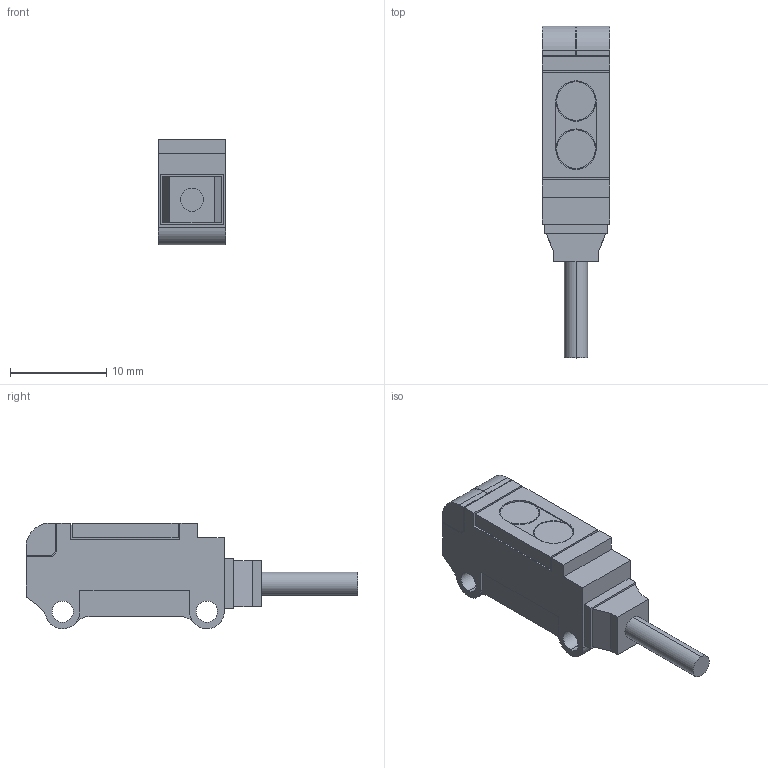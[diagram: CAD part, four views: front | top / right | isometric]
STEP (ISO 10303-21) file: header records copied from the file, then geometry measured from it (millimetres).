
FILE_DESCRIPTION (( 'STEP AP203' ), '1' );
FILE_NAME ('E3T_SL21.step', '2008-10-01T08:30:30', ( 'OSMC1.0 ' ), ( ' ' ), 'SwSTEP 2.0', 'SolidWorks 2002025', '' );
FILE_SCHEMA (( 'CONFIG_CONTROL_DESIGN' ));
Length unit declared in the file: millimetre
Products named in the file (1): E3T_SL21
Bounding box: 7 x 34.5 x 11 mm (x, y, z)
Volume: 1470.2 mm3; surface area: 1086.7 mm2
Topology: 1 solids, 1 shells, 104 faces, 281 edges, 186 vertices
Faces by surface type: plane 80, cylinder 24
Entity records: 3330 total; most frequent: CARTESIAN_POINT 572, ORIENTED_EDGE 562, DIRECTION 543, EDGE_CURVE 281, LINE 229, VECTOR 229, VERTEX_POINT 186, AXIS2_PLACEMENT_3D 157
